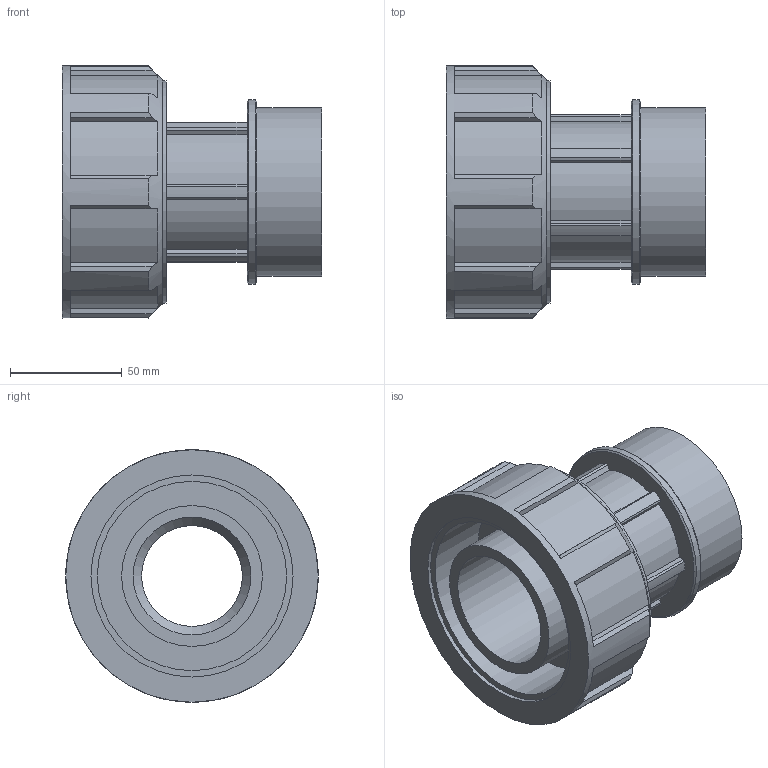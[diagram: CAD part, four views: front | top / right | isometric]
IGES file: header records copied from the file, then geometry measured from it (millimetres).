
Global section: file name: 072500063025_182500063025_0725060630250A.ipt; native system: Autodesk Inventor 2015; preprocessor: unknown; author: KIM; date: 20170608.042206; units: millimetre
Bounding box: 116 x 113 x 113 mm (x, y, z)
Volume: 370081.7 mm3; surface area: 90848.6 mm2
Topology: 1 solids, 1 shells, 108 faces, 300 edges, 202 vertices
Faces by surface type: plane 74, cylinder 25, revolution 6, cone 3
Full cylindrical faces by diameter (mm): 63 x1, 75.184 x1, 82.702 x1, 99.44 x1, 113 x1
